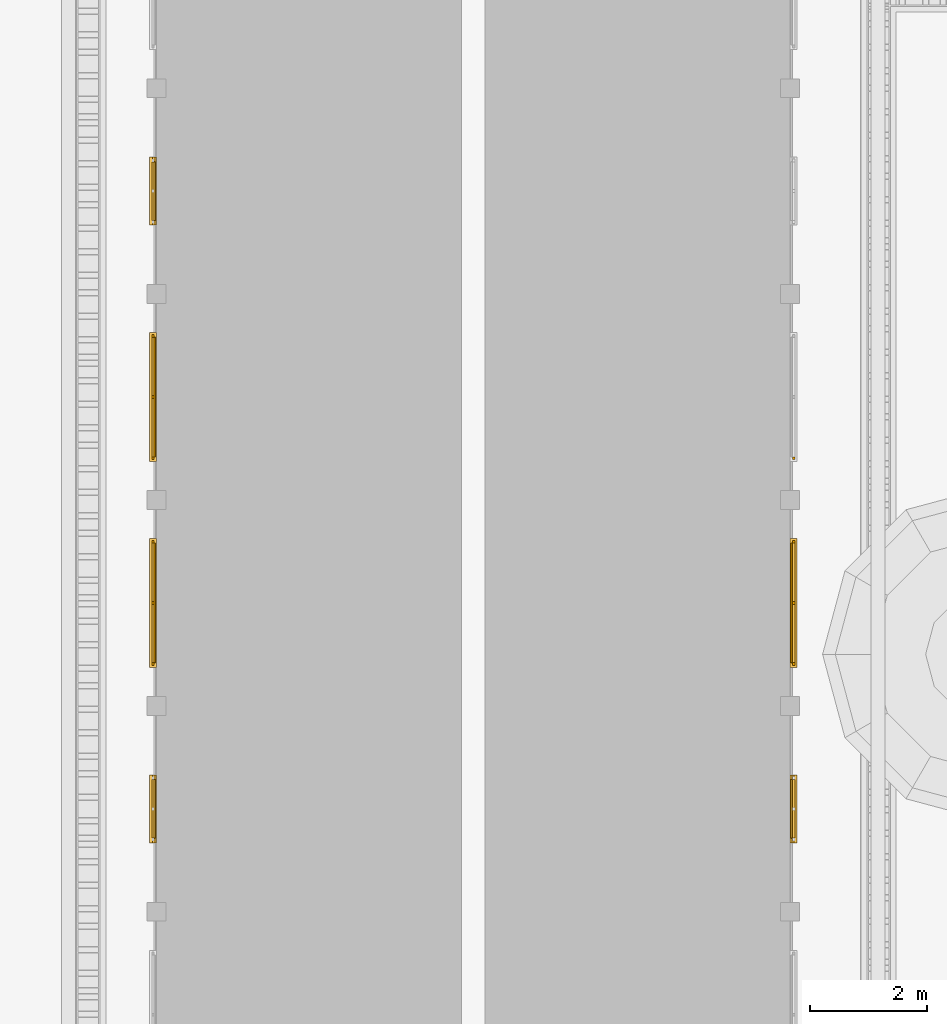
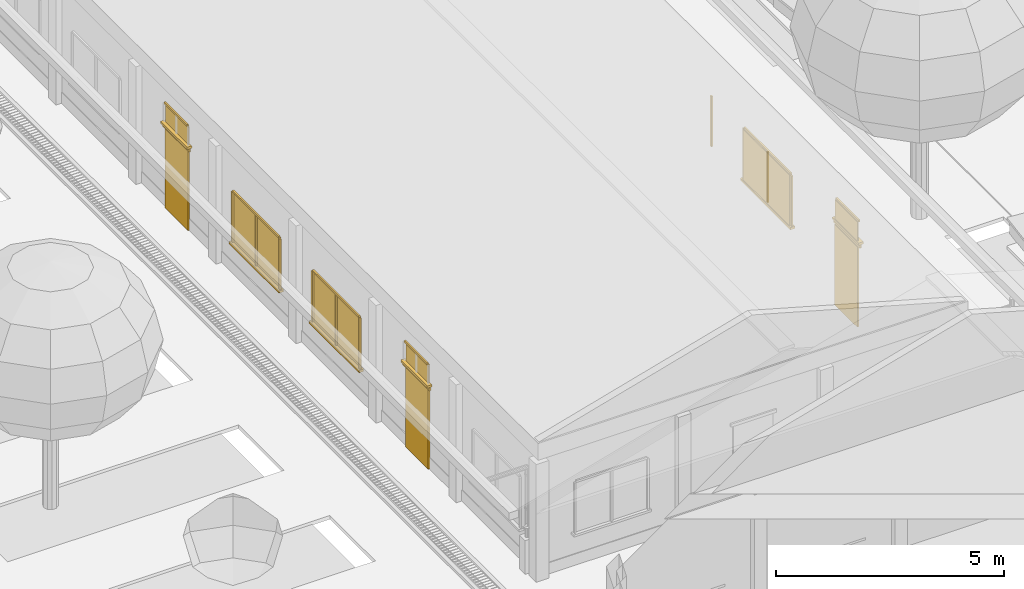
# One storey, part 42 of 166: 28 windows, 6 doors.
"""IFC2X3 building model written with IfcOpenShell, lengths in metres."""

from ifc_helpers import new_model, si_unit, origin, origin_with_axes, place, context, subcontext, project, spatial, faceted_brep, element, save


model = new_model("IFC2X3")

# Units and contexts
model_context = context("Model", 3, precision=1e-05, world=origin_with_axes())
body_context = subcontext(model_context, "Body", "Model", "MODEL_VIEW")
ifc_project = project(units=[si_unit("LENGTHUNIT", "METRE"), si_unit("AREAUNIT", "SQUARE_METRE"), si_unit("VOLUMEUNIT", "CUBIC_METRE"), si_unit("PLANEANGLEUNIT", "RADIAN")], contexts=[model_context])

# Site, building, storey
site_placement = place(None, origin_with_axes())
site = spatial("IfcSite", under=ifc_project, at=site_placement, Name="Predio Los Mangos - Morales, San Martín", CompositionType="ELEMENT")
building_placement = place(site_placement, origin())
building = spatial("IfcBuilding", under=site, at=building_placement, Name="Hogar de Refugio Temporal", CompositionType="ELEMENT")
storey_placement = place(building_placement, origin())
storey = spatial("IfcBuildingStorey", under=building, at=storey_placement, Name="NIVEL 1 (NPT +0.00)", CompositionType="ELEMENT", Elevation=0.0)

# Doors
door_1_placement = place(storey_placement, origin())
element("IfcDoor", 1, at=door_1_placement, inside=storey, Name="E-04_p1", ObjectType="Puerta", context=body_context, shape_type="Brep", body=[
    faceted_brep([(13.75, 56.865, 0.15), (13.75, 57.865, 0.15), (13.79, 57.865, 0.15), (13.79, 56.865, 0.15), (13.75, 56.865, 2.3), (13.79, 56.865, 2.3), (13.79, 57.865, 2.3), (13.75, 57.865, 2.3)], [[[0, 1, 2, 3]], [[4, 5, 6, 7]], [[0, 3, 5, 4]], [[3, 2, 6, 5]], [[2, 1, 7, 6]], [[1, 0, 4, 7]]]),
])
door_2_placement = place(storey_placement, origin())
element("IfcDoor", 2, at=door_2_placement, inside=storey, Name="E-04_p1_marco", ObjectType="Puerta", context=body_context, shape_type="Brep", body=[
    faceted_brep([(13.73, 56.785, 2.3), (13.73, 57.945, 2.3), (13.77, 57.945, 2.3), (13.77, 56.785, 2.3), (13.73, 56.785, 2.38), (13.77, 56.785, 2.38), (13.77, 57.945, 2.38), (13.73, 57.945, 2.38)], [[[0, 1, 2, 3]], [[4, 5, 6, 7]], [[0, 3, 5, 4]], [[3, 2, 6, 5]], [[2, 1, 7, 6]], [[1, 0, 4, 7]]]),
])

# Windows
window_1_placement = place(storey_placement, origin())
element("IfcWindow", 3, at=window_1_placement, inside=storey, Name="E-04_vt1_vid", ObjectType="Ventana", context=body_context, shape_type="Brep", body=[
    faceted_brep([(13.76, 56.865, 2.45), (13.76, 57.865, 2.45), (13.78, 57.865, 2.45), (13.78, 56.865, 2.45), (13.76, 56.865, 2.95), (13.78, 56.865, 2.95), (13.78, 57.865, 2.95), (13.76, 57.865, 2.95)], [[[0, 1, 2, 3]], [[4, 5, 6, 7]], [[0, 3, 5, 4]], [[3, 2, 6, 5]], [[2, 1, 7, 6]], [[1, 0, 4, 7]]]),
])
window_2_placement = place(storey_placement, origin())
element("IfcWindow", 4, at=window_2_placement, inside=storey, Name="E-04_vt1_m", ObjectType="Ventana", context=body_context, shape_type="Brep", body=[
    faceted_brep([(13.72, 56.865, 2.95), (13.72, 57.865, 2.95), (13.76, 57.865, 2.95), (13.76, 56.865, 2.95), (13.72, 56.865, 3.0), (13.76, 56.865, 3.0), (13.76, 57.865, 3.0), (13.72, 57.865, 3.0)], [[[0, 1, 2, 3]], [[4, 5, 6, 7]], [[0, 3, 5, 4]], [[3, 2, 6, 5]], [[2, 1, 7, 6]], [[1, 0, 4, 7]]]),
])
window_3_placement = place(storey_placement, origin())
element("IfcWindow", 5, at=window_3_placement, inside=storey, Name="E-04_vt1_alf", ObjectType="Ventana", context=body_context, shape_type="Brep", body=[
    faceted_brep([(13.8, 56.785, 2.39), (13.8, 57.945, 2.39), (13.68, 57.945, 2.39), (13.68, 56.785, 2.39), (13.8, 56.785, 2.45), (13.68, 56.785, 2.45), (13.68, 57.945, 2.45), (13.8, 57.945, 2.45)], [[[0, 1, 2, 3]], [[4, 5, 6, 7]], [[0, 3, 5, 4]], [[3, 2, 6, 5]], [[2, 1, 7, 6]], [[1, 0, 4, 7]]]),
])
window_4_placement = place(storey_placement, origin())
element("IfcWindow", 6, at=window_4_placement, inside=storey, Name="E-04_v2_vid", ObjectType="Ventana", context=body_context, shape_type="Brep", body=[
    faceted_brep([(13.76, 59.8571, 1.05), (13.76, 61.8929, 1.05), (13.78, 61.8929, 1.05), (13.78, 59.8571, 1.05), (13.76, 59.8571, 2.4), (13.78, 59.8571, 2.4), (13.78, 61.8929, 2.4), (13.76, 61.8929, 2.4)], [[[0, 1, 2, 3]], [[4, 5, 6, 7]], [[0, 3, 5, 4]], [[3, 2, 6, 5]], [[2, 1, 7, 6]], [[1, 0, 4, 7]]]),
])
window_5_placement = place(storey_placement, origin())
element("IfcWindow", 7, at=window_5_placement, inside=storey, Name="E-04_v2_m", ObjectType="Ventana", context=body_context, shape_type="Brep", body=[
    faceted_brep([(13.72, 59.8071, 1.05), (13.72, 59.8571, 1.05), (13.76, 59.8571, 1.05), (13.76, 59.8071, 1.05), (13.72, 59.8071, 2.4), (13.76, 59.8071, 2.4), (13.76, 59.8571, 2.4), (13.72, 59.8571, 2.4)], [[[0, 1, 2, 3]], [[4, 5, 6, 7]], [[0, 3, 5, 4]], [[3, 2, 6, 5]], [[2, 1, 7, 6]], [[1, 0, 4, 7]]]),
])
window_6_placement = place(storey_placement, origin())
element("IfcWindow", 8, at=window_6_placement, inside=storey, Name="E-04_v2_m", ObjectType="Ventana", context=body_context, shape_type="Brep", body=[
    faceted_brep([(13.72, 61.8929, 1.05), (13.72, 61.9429, 1.05), (13.76, 61.9429, 1.05), (13.76, 61.8929, 1.05), (13.72, 61.8929, 2.4), (13.76, 61.8929, 2.4), (13.76, 61.9429, 2.4), (13.72, 61.9429, 2.4)], [[[0, 1, 2, 3]], [[4, 5, 6, 7]], [[0, 3, 5, 4]], [[3, 2, 6, 5]], [[2, 1, 7, 6]], [[1, 0, 4, 7]]]),
])
window_7_placement = place(storey_placement, origin())
element("IfcWindow", 9, at=window_7_placement, inside=storey, Name="E-04_v2_m", ObjectType="Ventana", context=body_context, shape_type="Brep", body=[
    faceted_brep([(13.72, 59.8571, 2.4), (13.72, 61.8929, 2.4), (13.76, 61.8929, 2.4), (13.76, 59.8571, 2.4), (13.72, 59.8571, 2.45), (13.76, 59.8571, 2.45), (13.76, 61.8929, 2.45), (13.72, 61.8929, 2.45)], [[[0, 1, 2, 3]], [[4, 5, 6, 7]], [[0, 3, 5, 4]], [[3, 2, 6, 5]], [[2, 1, 7, 6]], [[1, 0, 4, 7]]]),
])
window_8_placement = place(storey_placement, origin())
element("IfcWindow", 10, at=window_8_placement, inside=storey, Name="E-04_v2_m", ObjectType="Ventana", context=body_context, shape_type="Brep", body=[
    faceted_brep([(13.72, 60.85, 1.05), (13.72, 60.9, 1.05), (13.76, 60.9, 1.05), (13.76, 60.85, 1.05), (13.72, 60.85, 2.4), (13.76, 60.85, 2.4), (13.76, 60.9, 2.4), (13.72, 60.9, 2.4)], [[[0, 1, 2, 3]], [[4, 5, 6, 7]], [[0, 3, 5, 4]], [[3, 2, 6, 5]], [[2, 1, 7, 6]], [[1, 0, 4, 7]]]),
])
window_9_placement = place(storey_placement, origin())
element("IfcWindow", 11, at=window_9_placement, inside=storey, Name="E-04_v2_alf", ObjectType="Ventana", context=body_context, shape_type="Brep", body=[
    faceted_brep([(13.8, 59.7771, 0.99), (13.8, 61.9729, 0.99), (13.68, 61.9729, 0.99), (13.68, 59.7771, 0.99), (13.8, 59.7771, 1.05), (13.68, 59.7771, 1.05), (13.68, 61.9729, 1.05), (13.8, 61.9729, 1.05)], [[[0, 1, 2, 3]], [[4, 5, 6, 7]], [[0, 3, 5, 4]], [[3, 2, 6, 5]], [[2, 1, 7, 6]], [[1, 0, 4, 7]]]),
])
window_10_placement = place(storey_placement, origin())
element("IfcWindow", 12, at=window_10_placement, inside=storey, Name="E-04_v3_vid", ObjectType="Ventana", context=body_context, shape_type="Brep", body=[
    faceted_brep([(13.76, 63.3671, 1.05), (13.76, 65.4029, 1.05), (13.78, 65.4029, 1.05), (13.78, 63.3671, 1.05), (13.76, 63.3671, 2.4), (13.78, 63.3671, 2.4), (13.78, 65.4029, 2.4), (13.76, 65.4029, 2.4)], [[[0, 1, 2, 3]], [[4, 5, 6, 7]], [[0, 3, 5, 4]], [[3, 2, 6, 5]], [[2, 1, 7, 6]], [[1, 0, 4, 7]]]),
])
window_11_placement = place(storey_placement, origin())
element("IfcWindow", 13, at=window_11_placement, inside=storey, Name="E-04_v3_m", ObjectType="Ventana", context=body_context, shape_type="Brep", body=[
    faceted_brep([(13.72, 63.3171, 1.05), (13.72, 63.3671, 1.05), (13.76, 63.3671, 1.05), (13.76, 63.3171, 1.05), (13.72, 63.3171, 2.4), (13.76, 63.3171, 2.4), (13.76, 63.3671, 2.4), (13.72, 63.3671, 2.4)], [[[0, 1, 2, 3]], [[4, 5, 6, 7]], [[0, 3, 5, 4]], [[3, 2, 6, 5]], [[2, 1, 7, 6]], [[1, 0, 4, 7]]]),
])
window_12_placement = place(storey_placement, origin())
element("IfcWindow", 14, at=window_12_placement, inside=storey, Name="E-04_v3_m", ObjectType="Ventana", context=body_context, shape_type="Brep", body=[
    faceted_brep([(13.72, 65.4029, 1.05), (13.72, 65.4529, 1.05), (13.76, 65.4529, 1.05), (13.76, 65.4029, 1.05), (13.72, 65.4029, 2.4), (13.76, 65.4029, 2.4), (13.76, 65.4529, 2.4), (13.72, 65.4529, 2.4)], [[[0, 1, 2, 3]], [[4, 5, 6, 7]], [[0, 3, 5, 4]], [[3, 2, 6, 5]], [[2, 1, 7, 6]], [[1, 0, 4, 7]]]),
])
window_13_placement = place(storey_placement, origin())
element("IfcWindow", 15, at=window_13_placement, inside=storey, Name="E-04_v3_m", ObjectType="Ventana", context=body_context, shape_type="Brep", body=[
    faceted_brep([(13.72, 63.3671, 2.4), (13.72, 65.4029, 2.4), (13.76, 65.4029, 2.4), (13.76, 63.3671, 2.4), (13.72, 63.3671, 2.45), (13.76, 63.3671, 2.45), (13.76, 65.4029, 2.45), (13.72, 65.4029, 2.45)], [[[0, 1, 2, 3]], [[4, 5, 6, 7]], [[0, 3, 5, 4]], [[3, 2, 6, 5]], [[2, 1, 7, 6]], [[1, 0, 4, 7]]]),
])
window_14_placement = place(storey_placement, origin())
element("IfcWindow", 16, at=window_14_placement, inside=storey, Name="E-04_v3_m", ObjectType="Ventana", context=body_context, shape_type="Brep", body=[
    faceted_brep([(13.72, 64.36, 1.05), (13.72, 64.41, 1.05), (13.76, 64.41, 1.05), (13.76, 64.36, 1.05), (13.72, 64.36, 2.4), (13.76, 64.36, 2.4), (13.76, 64.41, 2.4), (13.72, 64.41, 2.4)], [[[0, 1, 2, 3]], [[4, 5, 6, 7]], [[0, 3, 5, 4]], [[3, 2, 6, 5]], [[2, 1, 7, 6]], [[1, 0, 4, 7]]]),
])
window_15_placement = place(storey_placement, origin())
element("IfcWindow", 17, at=window_15_placement, inside=storey, Name="E-04_v3_alf", ObjectType="Ventana", context=body_context, shape_type="Brep", body=[
    faceted_brep([(13.8, 63.2871, 0.99), (13.8, 65.4829, 0.99), (13.68, 65.4829, 0.99), (13.68, 63.2871, 0.99), (13.8, 63.2871, 1.05), (13.68, 63.2871, 1.05), (13.68, 65.4829, 1.05), (13.8, 65.4829, 1.05)], [[[0, 1, 2, 3]], [[4, 5, 6, 7]], [[0, 3, 5, 4]], [[3, 2, 6, 5]], [[2, 1, 7, 6]], [[1, 0, 4, 7]]]),
])

# Doors
door_3_placement = place(storey_placement, origin())
element("IfcDoor", 18, at=door_3_placement, inside=storey, Name="E-04_p4", ObjectType="Puerta", context=body_context, shape_type="Brep", body=[
    faceted_brep([(13.75, 67.395, 0.15), (13.75, 68.395, 0.15), (13.79, 68.395, 0.15), (13.79, 67.395, 0.15), (13.75, 67.395, 2.3), (13.79, 67.395, 2.3), (13.79, 68.395, 2.3), (13.75, 68.395, 2.3)], [[[0, 1, 2, 3]], [[4, 5, 6, 7]], [[0, 3, 5, 4]], [[3, 2, 6, 5]], [[2, 1, 7, 6]], [[1, 0, 4, 7]]]),
])
door_4_placement = place(storey_placement, origin())
element("IfcDoor", 19, at=door_4_placement, inside=storey, Name="E-04_p4_marco", ObjectType="Puerta", context=body_context, shape_type="Brep", body=[
    faceted_brep([(13.73, 67.315, 2.3), (13.73, 68.475, 2.3), (13.77, 68.475, 2.3), (13.77, 67.315, 2.3), (13.73, 67.315, 2.38), (13.77, 67.315, 2.38), (13.77, 68.475, 2.38), (13.73, 68.475, 2.38)], [[[0, 1, 2, 3]], [[4, 5, 6, 7]], [[0, 3, 5, 4]], [[3, 2, 6, 5]], [[2, 1, 7, 6]], [[1, 0, 4, 7]]]),
])

# Windows
window_16_placement = place(storey_placement, origin())
element("IfcWindow", 20, at=window_16_placement, inside=storey, Name="E-04_vt4_vid", ObjectType="Ventana", context=body_context, shape_type="Brep", body=[
    faceted_brep([(13.76, 67.395, 2.45), (13.76, 68.395, 2.45), (13.78, 68.395, 2.45), (13.78, 67.395, 2.45), (13.76, 67.395, 2.95), (13.78, 67.395, 2.95), (13.78, 68.395, 2.95), (13.76, 68.395, 2.95)], [[[0, 1, 2, 3]], [[4, 5, 6, 7]], [[0, 3, 5, 4]], [[3, 2, 6, 5]], [[2, 1, 7, 6]], [[1, 0, 4, 7]]]),
])
window_17_placement = place(storey_placement, origin())
element("IfcWindow", 21, at=window_17_placement, inside=storey, Name="E-04_vt4_m", ObjectType="Ventana", context=body_context, shape_type="Brep", body=[
    faceted_brep([(13.72, 67.395, 2.95), (13.72, 68.395, 2.95), (13.76, 68.395, 2.95), (13.76, 67.395, 2.95), (13.72, 67.395, 3.0), (13.76, 67.395, 3.0), (13.76, 68.395, 3.0), (13.72, 68.395, 3.0)], [[[0, 1, 2, 3]], [[4, 5, 6, 7]], [[0, 3, 5, 4]], [[3, 2, 6, 5]], [[2, 1, 7, 6]], [[1, 0, 4, 7]]]),
])
window_18_placement = place(storey_placement, origin())
element("IfcWindow", 22, at=window_18_placement, inside=storey, Name="E-04_vt4_alf", ObjectType="Ventana", context=body_context, shape_type="Brep", body=[
    faceted_brep([(13.8, 67.315, 2.39), (13.8, 68.475, 2.39), (13.68, 68.475, 2.39), (13.68, 67.315, 2.39), (13.8, 67.315, 2.45), (13.68, 67.315, 2.45), (13.68, 68.475, 2.45), (13.8, 68.475, 2.45)], [[[0, 1, 2, 3]], [[4, 5, 6, 7]], [[0, 3, 5, 4]], [[3, 2, 6, 5]], [[2, 1, 7, 6]], [[1, 0, 4, 7]]]),
])

# Doors
door_5_placement = place(storey_placement, origin())
element("IfcDoor", 23, at=door_5_placement, inside=storey, Name="E-04_p1", ObjectType="Puerta", context=body_context, shape_type="Brep", body=[
    faceted_brep([(24.61, 56.865, 0.15), (24.61, 57.865, 0.15), (24.65, 57.865, 0.15), (24.65, 56.865, 0.15), (24.61, 56.865, 2.3), (24.65, 56.865, 2.3), (24.65, 57.865, 2.3), (24.61, 57.865, 2.3)], [[[0, 1, 2, 3]], [[4, 5, 6, 7]], [[0, 3, 5, 4]], [[3, 2, 6, 5]], [[2, 1, 7, 6]], [[1, 0, 4, 7]]]),
])
door_6_placement = place(storey_placement, origin())
element("IfcDoor", 24, at=door_6_placement, inside=storey, Name="E-04_p1_marco", ObjectType="Puerta", context=body_context, shape_type="Brep", body=[
    faceted_brep([(24.63, 56.785, 2.3), (24.63, 57.945, 2.3), (24.67, 57.945, 2.3), (24.67, 56.785, 2.3), (24.63, 56.785, 2.38), (24.67, 56.785, 2.38), (24.67, 57.945, 2.38), (24.63, 57.945, 2.38)], [[[0, 1, 2, 3]], [[4, 5, 6, 7]], [[0, 3, 5, 4]], [[3, 2, 6, 5]], [[2, 1, 7, 6]], [[1, 0, 4, 7]]]),
])

# Windows
window_19_placement = place(storey_placement, origin())
element("IfcWindow", 25, at=window_19_placement, inside=storey, Name="E-04_vt1_vid", ObjectType="Ventana", context=body_context, shape_type="Brep", body=[
    faceted_brep([(24.62, 56.865, 2.45), (24.62, 57.865, 2.45), (24.64, 57.865, 2.45), (24.64, 56.865, 2.45), (24.62, 56.865, 2.95), (24.64, 56.865, 2.95), (24.64, 57.865, 2.95), (24.62, 57.865, 2.95)], [[[0, 1, 2, 3]], [[4, 5, 6, 7]], [[0, 3, 5, 4]], [[3, 2, 6, 5]], [[2, 1, 7, 6]], [[1, 0, 4, 7]]]),
])
window_20_placement = place(storey_placement, origin())
element("IfcWindow", 26, at=window_20_placement, inside=storey, Name="E-04_vt1_m", ObjectType="Ventana", context=body_context, shape_type="Brep", body=[
    faceted_brep([(24.64, 56.865, 2.95), (24.64, 57.865, 2.95), (24.68, 57.865, 2.95), (24.68, 56.865, 2.95), (24.64, 56.865, 3.0), (24.68, 56.865, 3.0), (24.68, 57.865, 3.0), (24.64, 57.865, 3.0)], [[[0, 1, 2, 3]], [[4, 5, 6, 7]], [[0, 3, 5, 4]], [[3, 2, 6, 5]], [[2, 1, 7, 6]], [[1, 0, 4, 7]]]),
])
window_21_placement = place(storey_placement, origin())
element("IfcWindow", 27, at=window_21_placement, inside=storey, Name="E-04_vt1_alf", ObjectType="Ventana", context=body_context, shape_type="Brep", body=[
    faceted_brep([(24.6, 56.785, 2.39), (24.6, 57.945, 2.39), (24.72, 57.945, 2.39), (24.72, 56.785, 2.39), (24.6, 56.785, 2.45), (24.72, 56.785, 2.45), (24.72, 57.945, 2.45), (24.6, 57.945, 2.45)], [[[0, 1, 2, 3]], [[4, 5, 6, 7]], [[0, 3, 5, 4]], [[3, 2, 6, 5]], [[2, 1, 7, 6]], [[1, 0, 4, 7]]]),
])
window_22_placement = place(storey_placement, origin())
element("IfcWindow", 28, at=window_22_placement, inside=storey, Name="E-04_v2_vid", ObjectType="Ventana", context=body_context, shape_type="Brep", body=[
    faceted_brep([(24.62, 59.8571, 1.05), (24.62, 61.8929, 1.05), (24.64, 61.8929, 1.05), (24.64, 59.8571, 1.05), (24.62, 59.8571, 2.4), (24.64, 59.8571, 2.4), (24.64, 61.8929, 2.4), (24.62, 61.8929, 2.4)], [[[0, 1, 2, 3]], [[4, 5, 6, 7]], [[0, 3, 5, 4]], [[3, 2, 6, 5]], [[2, 1, 7, 6]], [[1, 0, 4, 7]]]),
])
window_23_placement = place(storey_placement, origin())
element("IfcWindow", 29, at=window_23_placement, inside=storey, Name="E-04_v2_m", ObjectType="Ventana", context=body_context, shape_type="Brep", body=[
    faceted_brep([(24.64, 59.8071, 1.05), (24.64, 59.8571, 1.05), (24.68, 59.8571, 1.05), (24.68, 59.8071, 1.05), (24.64, 59.8071, 2.4), (24.68, 59.8071, 2.4), (24.68, 59.8571, 2.4), (24.64, 59.8571, 2.4)], [[[0, 1, 2, 3]], [[4, 5, 6, 7]], [[0, 3, 5, 4]], [[3, 2, 6, 5]], [[2, 1, 7, 6]], [[1, 0, 4, 7]]]),
])
window_24_placement = place(storey_placement, origin())
element("IfcWindow", 30, at=window_24_placement, inside=storey, Name="E-04_v2_m", ObjectType="Ventana", context=body_context, shape_type="Brep", body=[
    faceted_brep([(24.64, 61.8929, 1.05), (24.64, 61.9429, 1.05), (24.68, 61.9429, 1.05), (24.68, 61.8929, 1.05), (24.64, 61.8929, 2.4), (24.68, 61.8929, 2.4), (24.68, 61.9429, 2.4), (24.64, 61.9429, 2.4)], [[[0, 1, 2, 3]], [[4, 5, 6, 7]], [[0, 3, 5, 4]], [[3, 2, 6, 5]], [[2, 1, 7, 6]], [[1, 0, 4, 7]]]),
])
window_25_placement = place(storey_placement, origin())
element("IfcWindow", 31, at=window_25_placement, inside=storey, Name="E-04_v2_m", ObjectType="Ventana", context=body_context, shape_type="Brep", body=[
    faceted_brep([(24.64, 59.8571, 2.4), (24.64, 61.8929, 2.4), (24.68, 61.8929, 2.4), (24.68, 59.8571, 2.4), (24.64, 59.8571, 2.45), (24.68, 59.8571, 2.45), (24.68, 61.8929, 2.45), (24.64, 61.8929, 2.45)], [[[0, 1, 2, 3]], [[4, 5, 6, 7]], [[0, 3, 5, 4]], [[3, 2, 6, 5]], [[2, 1, 7, 6]], [[1, 0, 4, 7]]]),
])
window_26_placement = place(storey_placement, origin())
element("IfcWindow", 32, at=window_26_placement, inside=storey, Name="E-04_v2_m", ObjectType="Ventana", context=body_context, shape_type="Brep", body=[
    faceted_brep([(24.64, 60.85, 1.05), (24.64, 60.9, 1.05), (24.68, 60.9, 1.05), (24.68, 60.85, 1.05), (24.64, 60.85, 2.4), (24.68, 60.85, 2.4), (24.68, 60.9, 2.4), (24.64, 60.9, 2.4)], [[[0, 1, 2, 3]], [[4, 5, 6, 7]], [[0, 3, 5, 4]], [[3, 2, 6, 5]], [[2, 1, 7, 6]], [[1, 0, 4, 7]]]),
])
window_27_placement = place(storey_placement, origin())
element("IfcWindow", 33, at=window_27_placement, inside=storey, Name="E-04_v2_alf", ObjectType="Ventana", context=body_context, shape_type="Brep", body=[
    faceted_brep([(24.6, 59.7771, 0.99), (24.6, 61.9729, 0.99), (24.72, 61.9729, 0.99), (24.72, 59.7771, 0.99), (24.6, 59.7771, 1.05), (24.72, 59.7771, 1.05), (24.72, 61.9729, 1.05), (24.6, 61.9729, 1.05)], [[[0, 1, 2, 3]], [[4, 5, 6, 7]], [[0, 3, 5, 4]], [[3, 2, 6, 5]], [[2, 1, 7, 6]], [[1, 0, 4, 7]]]),
])
window_28_placement = place(storey_placement, origin())
element("IfcWindow", 34, at=window_28_placement, inside=storey, Name="E-04_v3_m", ObjectType="Ventana", context=body_context, shape_type="Brep", body=[
    faceted_brep([(24.64, 63.3171, 1.05), (24.64, 63.3671, 1.05), (24.68, 63.3671, 1.05), (24.68, 63.3171, 1.05), (24.64, 63.3171, 2.4), (24.68, 63.3171, 2.4), (24.68, 63.3671, 2.4), (24.64, 63.3671, 2.4)], [[[0, 1, 2, 3]], [[4, 5, 6, 7]], [[0, 3, 5, 4]], [[3, 2, 6, 5]], [[2, 1, 7, 6]], [[1, 0, 4, 7]]]),
])

save(model, "model.ifc")
